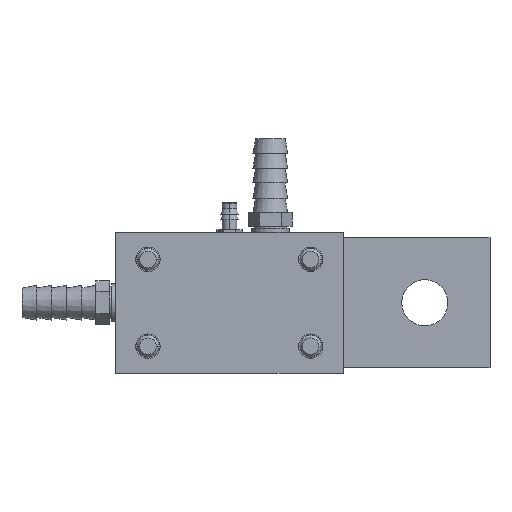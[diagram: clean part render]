
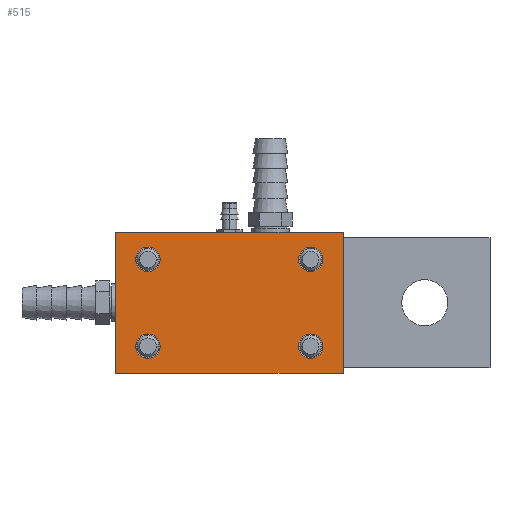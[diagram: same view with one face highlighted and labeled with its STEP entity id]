
A CAD part, left-side view. The second image highlights one B-rep face of the part: STEP entity #515.
In plain terms, the highlighted planar face has unit normal (-1, 0, 0).
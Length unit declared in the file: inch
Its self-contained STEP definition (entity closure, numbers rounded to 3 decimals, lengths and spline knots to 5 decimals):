
#250=CARTESIAN_POINT('',(-3.3125,-0.935,-0.5));
#251=DIRECTION('',(1.,0.,0.));
#252=DIRECTION('',(0.,-1.,0.));
#253=AXIS2_PLACEMENT_3D('',#250,#251,#252);
#255=CARTESIAN_POINT('',(-3.3125,-0.935,-0.5));
#256=DIRECTION('',(1.,0.,0.));
#257=DIRECTION('',(0.,1.,0.));
#258=AXIS2_PLACEMENT_3D('',#255,#256,#257);
#260=CARTESIAN_POINT('',(-3.3125,-0.935,0.5));
#261=DIRECTION('',(1.,0.,0.));
#262=DIRECTION('',(0.,-1.,0.));
#263=AXIS2_PLACEMENT_3D('',#260,#261,#262);
#265=CARTESIAN_POINT('',(-3.3125,-0.935,0.5));
#266=DIRECTION('',(1.,0.,0.));
#267=DIRECTION('',(0.,1.,0.));
#268=AXIS2_PLACEMENT_3D('',#265,#266,#267);
#270=CARTESIAN_POINT('',(-3.3125,0.94,-0.5));
#271=DIRECTION('',(1.,0.,0.));
#272=DIRECTION('',(0.,-1.,0.));
#273=AXIS2_PLACEMENT_3D('',#270,#271,#272);
#275=CARTESIAN_POINT('',(-3.3125,0.94,-0.5));
#276=DIRECTION('',(1.,0.,0.));
#277=DIRECTION('',(0.,1.,0.));
#278=AXIS2_PLACEMENT_3D('',#275,#276,#277);
#280=CARTESIAN_POINT('',(-3.3125,0.94,0.5));
#281=DIRECTION('',(1.,0.,0.));
#282=DIRECTION('',(0.,-1.,0.));
#283=AXIS2_PLACEMENT_3D('',#280,#281,#282);
#285=CARTESIAN_POINT('',(-3.3125,0.94,0.5));
#286=DIRECTION('',(1.,0.,0.));
#287=DIRECTION('',(0.,1.,0.));
#288=AXIS2_PLACEMENT_3D('',#285,#286,#287);
#318=DIRECTION('',(0.,-1.,0.));
#319=VECTOR('',#318,2.625);
#320=CARTESIAN_POINT('',(-3.3125,1.315,0.8125));
#321=LINE('',#320,#319);
#326=DIRECTION('',(0.,0.,-1.));
#327=VECTOR('',#326,1.625);
#328=CARTESIAN_POINT('',(-3.3125,-1.31,0.8125));
#329=LINE('',#328,#327);
#338=DIRECTION('',(0.,1.,0.));
#339=VECTOR('',#338,2.625);
#340=CARTESIAN_POINT('',(-3.3125,-1.31,-0.8125));
#341=LINE('',#340,#339);
#354=DIRECTION('',(0.,0.,1.));
#355=VECTOR('',#354,1.625);
#356=CARTESIAN_POINT('',(-3.3125,1.315,-0.8125));
#357=LINE('',#356,#355);
#368=CARTESIAN_POINT('',(-3.3125,1.315,-0.8125));
#369=VERTEX_POINT('',#368);
#370=CARTESIAN_POINT('',(-3.3125,1.315,0.8125));
#371=VERTEX_POINT('',#370);
#374=CARTESIAN_POINT('',(-3.3125,-1.31,-0.8125));
#375=VERTEX_POINT('',#374);
#376=CARTESIAN_POINT('',(-3.3125,-1.31,0.8125));
#377=VERTEX_POINT('',#376);
#378=CARTESIAN_POINT('',(-3.3125,-1.07563,-0.5));
#380=VERTEX_POINT('',#378);
#382=CARTESIAN_POINT('',(-3.3125,-0.79438,-0.5));
#384=VERTEX_POINT('',#382);
#386=CARTESIAN_POINT('',(-3.3125,-1.07563,0.5));
#388=VERTEX_POINT('',#386);
#390=CARTESIAN_POINT('',(-3.3125,-0.79438,0.5));
#392=VERTEX_POINT('',#390);
#394=CARTESIAN_POINT('',(-3.3125,0.79938,-0.5));
#396=VERTEX_POINT('',#394);
#398=CARTESIAN_POINT('',(-3.3125,1.08063,-0.5));
#400=VERTEX_POINT('',#398);
#402=CARTESIAN_POINT('',(-3.3125,0.79938,0.5));
#404=VERTEX_POINT('',#402);
#406=CARTESIAN_POINT('',(-3.3125,1.08063,0.5));
#408=VERTEX_POINT('',#406);
#478=CARTESIAN_POINT('',(-3.3125,0.0025,0.));
#479=DIRECTION('',(-1.,0.,0.));
#480=DIRECTION('',(0.,1.,0.));
#481=AXIS2_PLACEMENT_3D('',#478,#479,#480);
#482=PLANE('',#481);
#484=ORIENTED_EDGE('',*,*,#483,.T.);
#486=ORIENTED_EDGE('',*,*,#485,.T.);
#488=ORIENTED_EDGE('',*,*,#487,.T.);
#490=ORIENTED_EDGE('',*,*,#489,.T.);
#491=EDGE_LOOP('',(#484,#486,#488,#490));
#492=FACE_OUTER_BOUND('',#491,.F.);
#494=ORIENTED_EDGE('',*,*,#493,.F.);
#496=ORIENTED_EDGE('',*,*,#495,.F.);
#497=EDGE_LOOP('',(#494,#496));
#498=FACE_BOUND('',#497,.F.);
#500=ORIENTED_EDGE('',*,*,#499,.F.);
#502=ORIENTED_EDGE('',*,*,#501,.F.);
#503=EDGE_LOOP('',(#500,#502));
#504=FACE_BOUND('',#503,.F.);
#506=ORIENTED_EDGE('',*,*,#505,.F.);
#508=ORIENTED_EDGE('',*,*,#507,.F.);
#509=EDGE_LOOP('',(#506,#508));
#510=FACE_BOUND('',#509,.F.);
#511=ORIENTED_EDGE('',*,*,#419,.F.);
#512=ORIENTED_EDGE('',*,*,#472,.F.);
#513=EDGE_LOOP('',(#511,#512));
#514=FACE_BOUND('',#513,.F.);
#254=CIRCLE('',#253,0.14063);
#259=CIRCLE('',#258,0.14063);
#264=CIRCLE('',#263,0.14063);
#269=CIRCLE('',#268,0.14063);
#274=CIRCLE('',#273,0.14063);
#279=CIRCLE('',#278,0.14063);
#284=CIRCLE('',#283,0.14063);
#289=CIRCLE('',#288,0.14063);
#419=EDGE_CURVE('',#380,#384,#254,.T.);
#472=EDGE_CURVE('',#384,#380,#259,.T.);
#483=EDGE_CURVE('',#371,#377,#321,.T.);
#485=EDGE_CURVE('',#377,#375,#329,.T.);
#487=EDGE_CURVE('',#375,#369,#341,.T.);
#489=EDGE_CURVE('',#369,#371,#357,.T.);
#493=EDGE_CURVE('',#388,#392,#264,.T.);
#495=EDGE_CURVE('',#392,#388,#269,.T.);
#499=EDGE_CURVE('',#396,#400,#274,.T.);
#501=EDGE_CURVE('',#400,#396,#279,.T.);
#505=EDGE_CURVE('',#404,#408,#284,.T.);
#507=EDGE_CURVE('',#408,#404,#289,.T.);
#515=ADVANCED_FACE('',(#492,#498,#504,#510,#514),#482,.T.);
